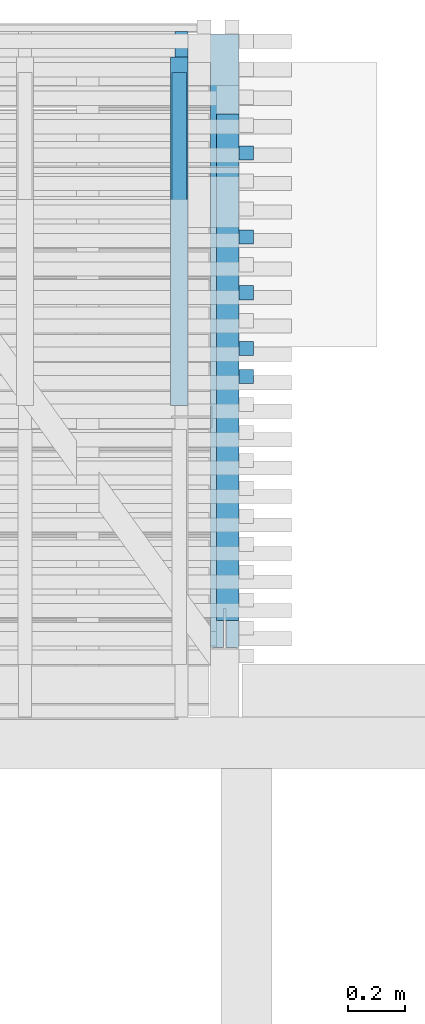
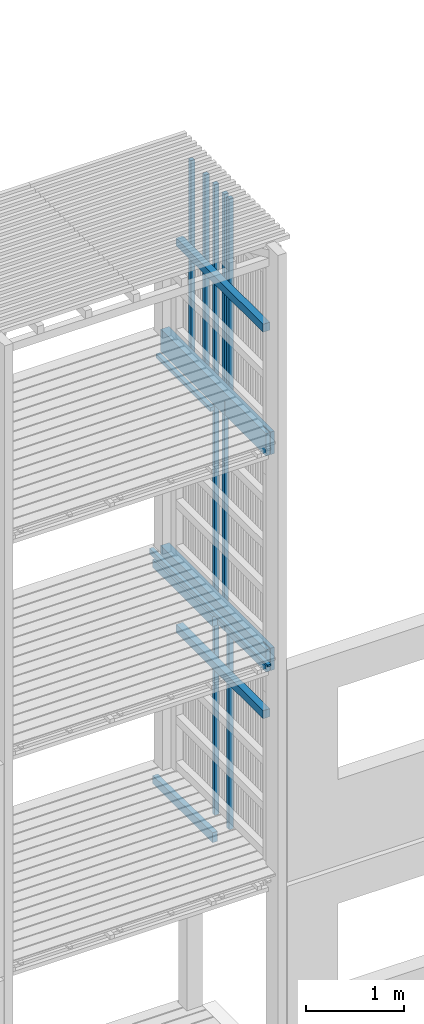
# One storey, part 30 of 182: 17 beams.
"""IFC2X3 building model written with IfcOpenShell, lengths in metres."""

from ifc_helpers import new_model, si_unit, frame, origin, place, context, project, spatial, faceted_brep, element, save


model = new_model("IFC2X3")

# Units and contexts
model_context = context("Model", 3, precision=1e-06, world=origin())
ifc_project = project(units=[si_unit("LENGTHUNIT", "METRE"), si_unit("PLANEANGLEUNIT", "RADIAN")], contexts=[model_context])

# Site, building, storey
site = spatial("IfcSite", under=ifc_project, CompositionType="ELEMENT")
building = spatial("IfcBuilding", under=site, CompositionType="ELEMENT")
storey = spatial("IfcBuildingStorey", under=building, Name="vs", CompositionType="ELEMENT", Elevation=-0.85)

# Beams
placement = place(None, origin())
beam_1_placement = place(placement, frame((6.441697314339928, 10.470077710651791, 5.384400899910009), z_axis=(0.0, 0.0, 1.0), x_axis=(0.0, 1.0, 0.0)))
element("IfcBeam", 1, at=beam_1_placement, inside=storey, Name="Calage", context=model_context, shape_type="Brep", body=[
    faceted_brep([(2.410000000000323, -0.022499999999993, -0.035599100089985), (0.0, -0.022499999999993, 0.012600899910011), (0.0, 0.022500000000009, 0.012600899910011), (2.410000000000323, 0.022500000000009, -0.035599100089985), (0.0, 0.022500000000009, 0.035599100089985), (0.0, 0.022500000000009, 0.012600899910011), (0.0, -0.022499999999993, 0.012600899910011), (0.0, -0.022499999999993, 0.035599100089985), (2.410000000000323, 0.022500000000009, -0.035599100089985), (0.0, 0.022500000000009, 0.012600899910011), (0.0, 0.022500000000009, 0.035599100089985), (2.410000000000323, 0.022500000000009, 0.035599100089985), (2.410000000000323, -0.022499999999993, 0.035599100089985), (0.0, -0.022499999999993, 0.035599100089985), (0.0, -0.022499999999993, 0.012600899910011), (2.410000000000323, -0.022499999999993, -0.035599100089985), (2.410000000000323, 0.022500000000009, 0.035599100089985), (0.0, 0.022500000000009, 0.035599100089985), (0.0, -0.022499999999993, 0.035599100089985), (2.410000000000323, -0.022499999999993, 0.035599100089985), (2.410000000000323, 0.022500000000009, -0.035599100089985), (2.410000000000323, 0.022500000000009, 0.035599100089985), (2.410000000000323, -0.022499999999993, 0.035599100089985), (2.410000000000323, -0.022499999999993, -0.035599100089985)], [[[0, 1, 2, 3]], [[4, 5, 6, 7]], [[8, 9, 10, 11]], [[12, 13, 14, 15]], [[16, 17, 18, 19]], [[20, 21, 22, 23]]]),
])
beam_2_placement = place(placement, frame((6.604197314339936, 10.810077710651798, 9.37249999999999), z_axis=(0.0, 0.0, 1.0), x_axis=(0.0, 1.0, 0.0)))
element("IfcBeam", 2, at=beam_2_placement, inside=storey, Name="Support bardage", context=model_context, shape_type="Brep", body=[
    faceted_brep([(1.779999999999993, -0.039999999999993, 0.050000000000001), (1.779999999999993, -0.039999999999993, -0.050000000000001), (1.779999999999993, 0.04000000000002, -0.050000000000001), (1.779999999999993, 0.04000000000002, 0.050000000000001), (-4e-15, -0.039999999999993, -0.050000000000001), (1.779999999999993, -0.039999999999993, -0.050000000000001), (1.779999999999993, -0.039999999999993, 0.050000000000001), (-4e-15, -0.039999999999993, 0.050000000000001), (-4e-15, 0.04000000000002, -0.050000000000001), (1.779999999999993, 0.04000000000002, -0.050000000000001), (1.779999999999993, -0.039999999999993, -0.050000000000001), (-4e-15, -0.039999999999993, -0.050000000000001), (-4e-15, 0.04000000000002, 0.050000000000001), (1.779999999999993, 0.04000000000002, 0.050000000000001), (1.779999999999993, 0.04000000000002, -0.050000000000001), (-4e-15, 0.04000000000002, -0.050000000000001), (-4e-15, -0.039999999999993, 0.050000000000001), (1.779999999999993, -0.039999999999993, 0.050000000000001), (1.779999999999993, 0.04000000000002, 0.050000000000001), (-4e-15, 0.04000000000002, 0.050000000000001), (-4e-15, -0.039999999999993, -0.050000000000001), (-4e-15, -0.039999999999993, 0.050000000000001), (-4e-15, 0.04000000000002, 0.050000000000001), (-4e-15, 0.04000000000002, -0.050000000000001)], [[[0, 1, 2, 3]], [[4, 5, 6, 7]], [[8, 9, 10, 11]], [[12, 13, 14, 15]], [[16, 17, 18, 19]], [[20, 21, 22, 23]]]),
])
beam_3_placement = place(placement, frame((6.66919731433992, 12.452350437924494, 7.974999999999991), z_axis=(-1.0, 0.0, 0.0), x_axis=(0.0, 0.0, 1.0)))
element("IfcBeam", 3, at=beam_3_placement, inside=storey, Name="Bardage", context=model_context, shape_type="Brep", body=[
    faceted_brep([(2.479999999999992, -0.024999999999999, 0.024999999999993), (2.479999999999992, -0.024999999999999, -0.025000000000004), (2.479999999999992, 0.025000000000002, -0.025000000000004), (2.479999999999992, 0.025000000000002, 0.024999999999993), (0.0, 0.025000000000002, 0.024999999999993), (0.0, -0.024999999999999, 0.024999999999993), (2.479999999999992, -0.024999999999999, 0.024999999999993), (2.479999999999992, 0.025000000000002, 0.024999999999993), (0.0, -0.024999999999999, 0.024999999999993), (0.0, 0.025000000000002, 0.024999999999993), (0.0, 0.025000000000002, -0.025000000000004), (0.0, -0.024999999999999, -0.025000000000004), (0.0, 0.025000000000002, -0.025000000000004), (0.0, 0.025000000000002, 0.024999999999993), (2.479999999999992, 0.025000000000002, 0.024999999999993), (2.479999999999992, 0.025000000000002, -0.025000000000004), (0.0, -0.024999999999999, -0.025000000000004), (0.0, 0.025000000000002, -0.025000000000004), (2.479999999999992, 0.025000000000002, -0.025000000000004), (2.479999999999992, -0.024999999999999, -0.025000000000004), (2.479999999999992, -0.024999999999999, 0.024999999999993), (0.0, -0.024999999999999, 0.024999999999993), (0.0, -0.024999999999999, -0.025000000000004), (2.479999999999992, -0.024999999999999, -0.025000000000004)], [[[0, 1, 2, 3]], [[4, 5, 6, 7]], [[8, 9, 10, 11]], [[12, 13, 14, 15]], [[16, 17, 18, 19]], [[20, 21, 22, 23]]]),
])
beam_4_placement = place(placement, frame((6.66919731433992, 11.666895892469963, 2.575000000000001), z_axis=(-1.0, 0.0, 0.0), x_axis=(0.0, 0.0, 1.0)))
element("IfcBeam", 4, at=beam_4_placement, inside=storey, Name="Bardage", context=model_context, shape_type="Brep", body=[
    faceted_brep([(0.0, -0.025000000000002, 0.024999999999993), (0.0, 0.024999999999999, 0.024999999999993), (0.0, 0.024999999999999, -0.025000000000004), (0.0, -0.025000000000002, -0.025000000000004), (2.699961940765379, 0.024999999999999, -0.025000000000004), (2.699961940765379, 0.024999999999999, 0.024999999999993), (2.699961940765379, -0.025000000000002, 0.024999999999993), (2.699961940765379, -0.025000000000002, -0.025000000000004), (0.0, -0.025000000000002, -0.025000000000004), (0.0, 0.024999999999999, -0.025000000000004), (2.699961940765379, 0.024999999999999, -0.025000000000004), (2.699961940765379, -0.025000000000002, -0.025000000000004), (2.699961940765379, 0.024999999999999, -0.025000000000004), (0.0, 0.024999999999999, -0.025000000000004), (0.0, 0.024999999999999, 0.024999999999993), (2.699961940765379, 0.024999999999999, 0.024999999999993), (2.699961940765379, 0.024999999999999, 0.024999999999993), (0.0, 0.024999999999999, 0.024999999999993), (0.0, -0.025000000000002, 0.024999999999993), (2.699961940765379, -0.025000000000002, 0.024999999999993), (2.699961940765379, -0.025000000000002, 0.024999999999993), (0.0, -0.025000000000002, 0.024999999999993), (0.0, -0.025000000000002, -0.025000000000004), (2.699961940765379, -0.025000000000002, -0.025000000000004)], [[[0, 1, 2, 3]], [[4, 5, 6, 7]], [[8, 9, 10, 11]], [[12, 13, 14, 15]], [[16, 17, 18, 19]], [[20, 21, 22, 23]]]),
])
beam_5_placement = place(placement, frame((6.66919731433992, 11.666895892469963, 7.974999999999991), z_axis=(-1.0, 0.0, 0.0), x_axis=(0.0, 0.0, 1.0)))
element("IfcBeam", 5, at=beam_5_placement, inside=storey, Name="Bardage", context=model_context, shape_type="Brep", body=[
    faceted_brep([(2.479999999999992, -0.025000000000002, 0.024999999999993), (2.479999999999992, -0.025000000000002, -0.025000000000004), (2.479999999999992, 0.024999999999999, -0.025000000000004), (2.479999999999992, 0.024999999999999, 0.024999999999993), (0.0, 0.024999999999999, 0.024999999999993), (0.0, -0.025000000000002, 0.024999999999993), (2.479999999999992, -0.025000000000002, 0.024999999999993), (2.479999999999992, 0.024999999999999, 0.024999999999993), (0.0, -0.025000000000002, 0.024999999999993), (0.0, 0.024999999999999, 0.024999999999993), (0.0, 0.024999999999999, -0.025000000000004), (0.0, -0.025000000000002, -0.025000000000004), (0.0, 0.024999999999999, -0.025000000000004), (0.0, 0.024999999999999, 0.024999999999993), (2.479999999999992, 0.024999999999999, 0.024999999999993), (2.479999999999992, 0.024999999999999, -0.025000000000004), (0.0, -0.025000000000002, -0.025000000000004), (0.0, 0.024999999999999, -0.025000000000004), (2.479999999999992, 0.024999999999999, -0.025000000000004), (2.479999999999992, -0.025000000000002, -0.025000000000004), (2.479999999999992, -0.025000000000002, 0.024999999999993), (0.0, -0.025000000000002, 0.024999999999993), (0.0, -0.025000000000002, -0.025000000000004), (2.479999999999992, -0.025000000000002, -0.025000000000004)], [[[0, 1, 2, 3]], [[4, 5, 6, 7]], [[8, 9, 10, 11]], [[12, 13, 14, 15]], [[16, 17, 18, 19]], [[20, 21, 22, 23]]]),
])
beam_6_placement = place(placement, frame((6.434197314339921, 11.565077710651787, 2.604249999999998), z_axis=(0.0, 0.0, 1.0), x_axis=(0.0, 1.0, 0.0)))
element("IfcBeam", 6, at=beam_6_placement, inside=storey, Name="Solive", context=model_context, shape_type="Brep", body=[
    faceted_brep([(0.0, -0.03, 0.06185), (0.0, -0.03, -0.06185), (1.225000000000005, -0.03, -0.06185), (1.225000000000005, -0.03, 0.03735), (0.0, -0.03, -0.06185), (0.0, -0.03, 0.06185), (0.0, 0.029999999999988, 0.06185), (0.0, 0.029999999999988, -0.06185), (1.225000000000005, -0.03, -0.06185), (0.0, -0.03, -0.06185), (0.0, 0.029999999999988, -0.06185), (1.225000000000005, 0.029999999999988, -0.06185), (1.225000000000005, 0.029999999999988, 0.03735), (1.225000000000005, 0.029999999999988, -0.06185), (0.0, 0.029999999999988, -0.06185), (0.0, 0.029999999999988, 0.06185), (1.225000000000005, -0.03, 0.03735), (1.225000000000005, -0.03, -0.06185), (1.225000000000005, 0.029999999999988, -0.06185), (1.225000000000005, 0.029999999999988, 0.03735), (1.225000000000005, -0.03, 0.03735), (1.225000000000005, 0.029999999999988, 0.03735), (0.0, 0.029999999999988, 0.06185), (0.0, -0.03, 0.06185)], [[[0, 1, 2, 3]], [[4, 5, 6, 7]], [[8, 9, 10, 11]], [[12, 13, 14, 15]], [[16, 17, 18, 19]], [[20, 21, 22, 23]]]),
])
beam_7_placement = place(placement, frame((6.66919731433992, 11.765077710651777, 5.274999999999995), z_axis=(-1.0, 0.0, 0.0), x_axis=(0.0, 1e-15, 1.0)))
element("IfcBeam", 7, at=beam_7_placement, inside=storey, Name="Bardage", context=model_context, shape_type="Brep", body=[
    faceted_brep([(1e-15, -0.024999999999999, 0.024999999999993), (1e-15, 0.025000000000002, 0.024999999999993), (1e-15, 0.025000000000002, -0.025000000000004), (1e-15, -0.024999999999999, -0.025000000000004), (2.699999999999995, -0.025000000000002, -0.025000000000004), (2.699999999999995, 0.024999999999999, -0.025000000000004), (2.699999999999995, 0.024999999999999, 0.024999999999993), (2.699999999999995, -0.025000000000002, 0.024999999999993), (1e-15, -0.024999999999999, 0.024999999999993), (1e-15, -0.024999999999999, -0.025000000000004), (2.699999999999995, -0.025000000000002, -0.025000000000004), (2.699999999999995, -0.025000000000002, 0.024999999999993), (2.699999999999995, -0.025000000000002, -0.025000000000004), (1e-15, -0.024999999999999, -0.025000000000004), (1e-15, 0.025000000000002, -0.025000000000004), (2.699999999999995, 0.024999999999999, -0.025000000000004), (2.699999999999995, 0.024999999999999, -0.025000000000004), (1e-15, 0.025000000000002, -0.025000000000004), (1e-15, 0.025000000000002, 0.024999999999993), (2.699999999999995, 0.024999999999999, 0.024999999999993), (2.699999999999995, 0.024999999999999, 0.024999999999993), (1e-15, 0.025000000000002, 0.024999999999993), (1e-15, -0.024999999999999, 0.024999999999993), (2.699999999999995, -0.025000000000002, 0.024999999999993)], [[[0, 1, 2, 3]], [[4, 5, 6, 7]], [[8, 9, 10, 11]], [[12, 13, 14, 15]], [[16, 17, 18, 19]], [[20, 21, 22, 23]]]),
])
beam_8_placement = place(placement, frame((6.66919731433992, 12.157804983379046, 7.974999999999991), z_axis=(-1.0, 0.0, 0.0), x_axis=(0.0, 0.0, 1.0)))
element("IfcBeam", 8, at=beam_8_placement, inside=storey, Name="Bardage", context=model_context, shape_type="Brep", body=[
    faceted_brep([(2.479999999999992, -0.024999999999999, 0.024999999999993), (2.479999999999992, -0.024999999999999, -0.025000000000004), (2.479999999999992, 0.025000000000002, -0.025000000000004), (2.479999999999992, 0.025000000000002, 0.024999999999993), (0.0, 0.024999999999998, 0.024999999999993), (0.0, -0.024999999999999, 0.024999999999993), (2.479999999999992, -0.024999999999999, 0.024999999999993), (2.479999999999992, 0.025000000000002, 0.024999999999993), (0.0, -0.024999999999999, 0.024999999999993), (0.0, 0.024999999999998, 0.024999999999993), (0.0, 0.024999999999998, -0.025000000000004), (0.0, -0.024999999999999, -0.025000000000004), (0.0, 0.024999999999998, -0.025000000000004), (0.0, 0.024999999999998, 0.024999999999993), (2.479999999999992, 0.025000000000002, 0.024999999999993), (2.479999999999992, 0.025000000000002, -0.025000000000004), (0.0, -0.024999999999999, -0.025000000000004), (0.0, 0.024999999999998, -0.025000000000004), (2.479999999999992, 0.025000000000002, -0.025000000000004), (2.479999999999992, -0.024999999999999, -0.025000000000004), (2.479999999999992, -0.024999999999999, 0.024999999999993), (0.0, -0.024999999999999, 0.024999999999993), (0.0, -0.024999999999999, -0.025000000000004), (2.479999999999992, -0.024999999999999, -0.025000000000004)], [[[0, 1, 2, 3]], [[4, 5, 6, 7]], [[8, 9, 10, 11]], [[12, 13, 14, 15]], [[16, 17, 18, 19]], [[20, 21, 22, 23]]]),
])
beam_9_placement = place(placement, frame((6.434197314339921, 12.735077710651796, 7.91739999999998), z_axis=(0.0, 0.0, 1.0), x_axis=(0.0, -1.0, 0.0)))
element("IfcBeam", 9, at=beam_9_placement, inside=storey, Name="Calage", context=model_context, shape_type="Brep", body=[
    faceted_brep([(0.0, 0.025000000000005, -0.025), (0.0, -0.024999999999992, -0.025), (0.0, -0.024999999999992, 0.024999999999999), (0.0, 0.025000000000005, 0.024999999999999), (1.115000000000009, -0.024999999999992, 0.024999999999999), (1.115000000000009, -0.024999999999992, -0.025), (1.115000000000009, 0.025000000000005, -0.025), (1.115000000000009, 0.025000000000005, 0.024999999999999), (0.0, -0.024999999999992, 0.024999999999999), (0.0, -0.024999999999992, -0.025), (1.115000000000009, -0.024999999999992, -0.025), (1.115000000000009, -0.024999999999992, 0.024999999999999), (1.115000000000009, -0.024999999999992, -0.025), (0.0, -0.024999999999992, -0.025), (0.0, 0.025000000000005, -0.025), (1.115000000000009, 0.025000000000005, -0.025), (1.115000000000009, 0.025000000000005, -0.025), (0.0, 0.025000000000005, -0.025), (0.0, 0.025000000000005, 0.024999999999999), (1.115000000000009, 0.025000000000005, 0.024999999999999), (1.115000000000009, 0.025000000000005, 0.024999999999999), (0.0, 0.025000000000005, 0.024999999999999), (0.0, -0.024999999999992, 0.024999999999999), (1.115000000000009, -0.024999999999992, 0.024999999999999)], [[[0, 1, 2, 3]], [[4, 5, 6, 7]], [[8, 9, 10, 11]], [[12, 13, 14, 15]], [[16, 17, 18, 19]], [[20, 21, 22, 23]]]),
])
beam_10_placement = place(placement, frame((6.604197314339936, 10.810077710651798, 4.543749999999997), z_axis=(0.0, 0.0, 1.0), x_axis=(0.0, 1.0, 0.0)))
element("IfcBeam", 10, at=beam_10_placement, inside=storey, Name="Support bardage", context=model_context, shape_type="Brep", body=[
    faceted_brep([(1.779999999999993, -0.039999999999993, 0.050000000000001), (1.779999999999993, -0.039999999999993, -0.050000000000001), (1.779999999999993, 0.04000000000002, -0.050000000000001), (1.779999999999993, 0.04000000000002, 0.050000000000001), (-4e-15, -0.039999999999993, -0.050000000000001), (1.779999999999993, -0.039999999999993, -0.050000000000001), (1.779999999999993, -0.039999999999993, 0.050000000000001), (-4e-15, -0.039999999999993, 0.050000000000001), (-4e-15, 0.04000000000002, -0.050000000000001), (1.779999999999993, 0.04000000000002, -0.050000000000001), (1.779999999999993, -0.039999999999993, -0.050000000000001), (-4e-15, -0.039999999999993, -0.050000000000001), (-4e-15, 0.04000000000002, 0.050000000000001), (1.779999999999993, 0.04000000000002, 0.050000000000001), (1.779999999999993, 0.04000000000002, -0.050000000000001), (-4e-15, 0.04000000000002, -0.050000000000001), (-4e-15, -0.039999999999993, 0.050000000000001), (1.779999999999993, -0.039999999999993, 0.050000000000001), (1.779999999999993, 0.04000000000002, 0.050000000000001), (-4e-15, 0.04000000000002, 0.050000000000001), (-4e-15, -0.039999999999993, -0.050000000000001), (-4e-15, -0.039999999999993, 0.050000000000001), (-4e-15, 0.04000000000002, 0.050000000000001), (-4e-15, 0.04000000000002, -0.050000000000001)], [[[0, 1, 2, 3]], [[4, 5, 6, 7]], [[8, 9, 10, 11]], [[12, 13, 14, 15]], [[16, 17, 18, 19]], [[20, 21, 22, 23]]]),
])
beam_11_placement = place(placement, frame((6.66919731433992, 11.765077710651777, 7.974999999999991), z_axis=(-1.0, 0.0, 0.0), x_axis=(0.0, 1e-15, 1.0)))
element("IfcBeam", 11, at=beam_11_placement, inside=storey, Name="Bardage", context=model_context, shape_type="Brep", body=[
    faceted_brep([(2.479999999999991, -0.025000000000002, 0.024999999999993), (2.479999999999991, -0.025000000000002, -0.025000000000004), (2.479999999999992, 0.024999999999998, -0.025000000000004), (2.479999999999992, 0.024999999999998, 0.024999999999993), (0.0, 0.025000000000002, 0.024999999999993), (0.0, -0.024999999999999, 0.024999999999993), (2.479999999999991, -0.025000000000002, 0.024999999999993), (2.479999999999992, 0.024999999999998, 0.024999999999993), (0.0, -0.024999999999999, 0.024999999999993), (0.0, 0.025000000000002, 0.024999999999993), (0.0, 0.025000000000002, -0.025000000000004), (0.0, -0.024999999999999, -0.025000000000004), (0.0, 0.025000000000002, -0.025000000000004), (0.0, 0.025000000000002, 0.024999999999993), (2.479999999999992, 0.024999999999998, 0.024999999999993), (2.479999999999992, 0.024999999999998, -0.025000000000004), (0.0, -0.024999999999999, -0.025000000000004), (0.0, 0.025000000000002, -0.025000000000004), (2.479999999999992, 0.024999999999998, -0.025000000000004), (2.479999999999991, -0.025000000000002, -0.025000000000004), (2.479999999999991, -0.025000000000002, 0.024999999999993), (0.0, -0.024999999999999, 0.024999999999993), (0.0, -0.024999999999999, -0.025000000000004), (2.479999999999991, -0.025000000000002, -0.025000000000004)], [[[0, 1, 2, 3]], [[4, 5, 6, 7]], [[8, 9, 10, 11]], [[12, 13, 14, 15]], [[16, 17, 18, 19]], [[20, 21, 22, 23]]]),
])
beam_12_placement = place(placement, frame((6.66919731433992, 11.961441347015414, 7.974999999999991), z_axis=(-1.0, 0.0, 0.0), x_axis=(0.0, 0.0, 1.0)))
element("IfcBeam", 12, at=beam_12_placement, inside=storey, Name="Bardage", context=model_context, shape_type="Brep", body=[
    faceted_brep([(2.479999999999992, -0.025000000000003, 0.024999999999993), (2.479999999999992, -0.025000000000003, -0.025000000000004), (2.479999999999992, 0.024999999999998, -0.025000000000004), (2.479999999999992, 0.024999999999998, 0.024999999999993), (0.0, 0.024999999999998, 0.024999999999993), (0.0, -0.025000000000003, 0.024999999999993), (2.479999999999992, -0.025000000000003, 0.024999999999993), (2.479999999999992, 0.024999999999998, 0.024999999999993), (0.0, -0.025000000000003, 0.024999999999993), (0.0, 0.024999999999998, 0.024999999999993), (0.0, 0.024999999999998, -0.025000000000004), (0.0, -0.025000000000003, -0.025000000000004), (0.0, 0.024999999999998, -0.025000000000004), (0.0, 0.024999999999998, 0.024999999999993), (2.479999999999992, 0.024999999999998, 0.024999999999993), (2.479999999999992, 0.024999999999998, -0.025000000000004), (0.0, -0.025000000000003, -0.025000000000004), (0.0, 0.024999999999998, -0.025000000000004), (2.479999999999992, 0.024999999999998, -0.025000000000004), (2.479999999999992, -0.025000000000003, -0.025000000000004), (2.479999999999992, -0.025000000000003, 0.024999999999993), (0.0, -0.025000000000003, 0.024999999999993), (0.0, -0.025000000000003, -0.025000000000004), (2.479999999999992, -0.025000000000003, -0.025000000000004)], [[[0, 1, 2, 3]], [[4, 5, 6, 7]], [[8, 9, 10, 11]], [[12, 13, 14, 15]], [[16, 17, 18, 19]], [[20, 21, 22, 23]]]),
])
beam_13_placement = place(placement, frame((6.59419731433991, 10.715077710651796, 7.979999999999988), z_axis=(0.0, 0.0, 1.0), x_axis=(0.0, 1.0, 0.0)))
element("IfcBeam", 13, at=beam_13_placement, inside=storey, Name="Sommier", context=model_context, shape_type="Brep", body=[
    faceted_brep([(2.154999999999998, -0.050000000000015, -0.14), (2.154999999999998, -0.050000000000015, 0.140000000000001), (0.0, -0.050000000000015, 0.140000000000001), (0.0, -0.050000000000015, -0.14), (-4e-15, -0.004000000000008, 0.140000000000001), (0.0, -0.050000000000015, 0.140000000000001), (2.154999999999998, -0.050000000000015, 0.140000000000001), (2.154999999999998, 0.049999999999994, 0.140000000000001), (0.0, 0.049999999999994, 0.140000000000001), (-4e-15, 0.003999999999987, 0.140000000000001), (0.136999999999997, 0.003999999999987, 0.140000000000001), (0.136999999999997, -0.004000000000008, 0.140000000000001), (2.154999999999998, 0.049999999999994, 0.140000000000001), (2.154999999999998, -0.050000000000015, 0.140000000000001), (2.154999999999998, -0.050000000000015, -0.14), (2.154999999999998, 0.049999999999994, -0.14), (0.847999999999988, 0.044999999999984, -0.14), (0.771999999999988, 0.044999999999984, -0.14), (0.771999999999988, 0.044999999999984, 0.035000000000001), (0.847999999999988, 0.044999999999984, 0.035000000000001), (0.847999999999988, 0.044999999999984, 0.035000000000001), (0.771999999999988, 0.044999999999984, 0.035000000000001), (0.771999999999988, 0.049999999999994, 0.035000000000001), (0.847999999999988, 0.049999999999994, 0.035000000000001), (0.847999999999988, 0.049999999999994, -0.14), (0.847999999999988, 0.044999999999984, -0.14), (0.847999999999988, 0.044999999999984, 0.035000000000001), (0.847999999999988, 0.049999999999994, 0.035000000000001), (0.771999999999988, 0.044999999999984, 0.035000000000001), (0.771999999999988, 0.044999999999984, -0.14), (0.771999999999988, 0.049999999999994, -0.14), (0.771999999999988, 0.049999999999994, 0.035000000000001), (0.0, 0.049999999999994, 0.140000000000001), (2.154999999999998, 0.049999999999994, 0.140000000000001), (2.154999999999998, 0.049999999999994, -0.14), (0.847999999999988, 0.049999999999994, -0.14), (0.847999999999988, 0.049999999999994, 0.035000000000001), (0.771999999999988, 0.049999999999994, 0.035000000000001), (0.771999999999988, 0.049999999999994, -0.14), (0.0, 0.049999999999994, -0.14), (0.0, 0.003999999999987, -0.14), (-4e-15, 0.003999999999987, 0.140000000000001), (0.0, 0.049999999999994, 0.140000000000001), (0.0, 0.049999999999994, -0.14), (0.0, -0.050000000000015, 0.140000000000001), (-4e-15, -0.004000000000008, 0.140000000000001), (0.0, -0.004000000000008, -0.14), (0.0, -0.050000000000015, -0.14), (0.0, 0.049999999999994, -0.14), (0.771999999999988, 0.049999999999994, -0.14), (0.771999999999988, 0.044999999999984, -0.14), (0.847999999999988, 0.044999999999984, -0.14), (0.847999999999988, 0.049999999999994, -0.14), (2.154999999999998, 0.049999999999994, -0.14), (2.154999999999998, -0.050000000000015, -0.14), (0.0, -0.050000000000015, -0.14), (0.0, -0.004000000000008, -0.14), (0.136999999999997, -0.004000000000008, -0.14), (0.136999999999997, 0.003999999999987, -0.14), (0.0, 0.003999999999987, -0.14), (0.136999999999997, 0.003999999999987, -0.14), (0.136999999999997, -0.004000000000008, -0.14), (0.136999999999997, -0.004000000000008, 0.140000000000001), (0.136999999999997, 0.003999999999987, 0.140000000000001), (-4e-15, -0.004000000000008, 0.140000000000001), (0.136999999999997, -0.004000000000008, 0.140000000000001), (0.136999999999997, -0.004000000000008, -0.14), (0.0, -0.004000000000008, -0.14), (0.136999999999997, 0.003999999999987, 0.140000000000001), (-4e-15, 0.003999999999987, 0.140000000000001), (0.0, 0.003999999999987, -0.14), (0.136999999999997, 0.003999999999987, -0.14)], [[[0, 1, 2, 3]], [[4, 5, 6, 7, 8, 9, 10, 11]], [[12, 13, 14, 15]], [[16, 17, 18, 19]], [[20, 21, 22, 23]], [[24, 25, 26, 27]], [[28, 29, 30, 31]], [[32, 33, 34, 35, 36, 37, 38, 39]], [[40, 41, 42, 43]], [[44, 45, 46, 47]], [[48, 49, 50, 51, 52, 53, 54, 55, 56, 57, 58, 59]], [[60, 61, 62, 63]], [[64, 65, 66, 67]], [[68, 69, 70, 71]]]),
])
beam_14_placement = place(placement, frame((6.66919731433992, 11.961441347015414, 5.274999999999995), z_axis=(-1.0, 0.0, 0.0), x_axis=(0.0, 0.0, 1.0)))
element("IfcBeam", 14, at=beam_14_placement, inside=storey, Name="Bardage", context=model_context, shape_type="Brep", body=[
    faceted_brep([(1e-15, -0.025000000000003, 0.024999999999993), (1e-15, 0.024999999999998, 0.024999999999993), (1e-15, 0.024999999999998, -0.025000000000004), (1e-15, -0.025000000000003, -0.025000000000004), (2.699999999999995, -0.025000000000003, -0.025000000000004), (2.699999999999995, 0.024999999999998, -0.025000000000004), (2.699999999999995, 0.024999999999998, 0.024999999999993), (2.699999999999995, -0.025000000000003, 0.024999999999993), (1e-15, -0.025000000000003, 0.024999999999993), (1e-15, -0.025000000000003, -0.025000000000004), (2.699999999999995, -0.025000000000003, -0.025000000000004), (2.699999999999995, -0.025000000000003, 0.024999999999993), (2.699999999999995, -0.025000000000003, -0.025000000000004), (1e-15, -0.025000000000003, -0.025000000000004), (1e-15, 0.024999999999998, -0.025000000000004), (2.699999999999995, 0.024999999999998, -0.025000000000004), (2.699999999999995, 0.024999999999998, -0.025000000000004), (1e-15, 0.024999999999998, -0.025000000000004), (1e-15, 0.024999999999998, 0.024999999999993), (2.699999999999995, 0.024999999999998, 0.024999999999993), (2.699999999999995, 0.024999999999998, 0.024999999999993), (1e-15, 0.024999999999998, 0.024999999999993), (1e-15, -0.025000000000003, 0.024999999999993), (2.699999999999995, -0.025000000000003, 0.024999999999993)], [[[0, 1, 2, 3]], [[4, 5, 6, 7]], [[8, 9, 10, 11]], [[12, 13, 14, 15]], [[16, 17, 18, 19]], [[20, 21, 22, 23]]]),
])
beam_15_placement = place(placement, frame((6.59419731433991, 10.715077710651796, 5.279999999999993), z_axis=(0.0, 0.0, 1.0), x_axis=(0.0, 1.0, 0.0)))
element("IfcBeam", 15, at=beam_15_placement, inside=storey, Name="Sommier", context=model_context, shape_type="Brep", body=[
    faceted_brep([(2.154999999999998, -0.050000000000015, -0.140000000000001), (2.154999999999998, -0.050000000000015, 0.140000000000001), (0.0, -0.050000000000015, 0.140000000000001), (0.0, -0.050000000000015, -0.140000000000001), (-4e-15, -0.004000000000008, 0.140000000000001), (0.0, -0.050000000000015, 0.140000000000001), (2.154999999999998, -0.050000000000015, 0.140000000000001), (2.154999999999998, 0.049999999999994, 0.140000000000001), (0.0, 0.049999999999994, 0.140000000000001), (-4e-15, 0.003999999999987, 0.140000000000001), (0.136999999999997, 0.003999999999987, 0.140000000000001), (0.136999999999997, -0.004000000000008, 0.140000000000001), (2.154999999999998, 0.049999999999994, 0.140000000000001), (2.154999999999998, -0.050000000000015, 0.140000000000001), (2.154999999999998, -0.050000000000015, -0.140000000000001), (2.154999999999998, 0.049999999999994, -0.140000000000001), (0.847999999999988, 0.044999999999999, -0.140000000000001), (0.771999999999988, 0.044999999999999, -0.140000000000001), (0.771999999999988, 0.044999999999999, 0.034999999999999), (0.847999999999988, 0.044999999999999, 0.034999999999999), (0.847999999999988, 0.044999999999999, 0.034999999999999), (0.771999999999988, 0.044999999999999, 0.034999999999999), (0.771999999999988, 0.049999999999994, 0.034999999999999), (0.847999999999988, 0.049999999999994, 0.034999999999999), (0.847999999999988, 0.049999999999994, -0.140000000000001), (0.847999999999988, 0.044999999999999, -0.140000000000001), (0.847999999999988, 0.044999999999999, 0.034999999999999), (0.847999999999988, 0.049999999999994, 0.034999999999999), (0.771999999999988, 0.044999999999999, 0.034999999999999), (0.771999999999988, 0.044999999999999, -0.140000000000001), (0.771999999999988, 0.049999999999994, -0.140000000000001), (0.771999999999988, 0.049999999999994, 0.034999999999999), (0.0, 0.049999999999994, 0.140000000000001), (2.154999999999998, 0.049999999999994, 0.140000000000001), (2.154999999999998, 0.049999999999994, -0.140000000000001), (0.847999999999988, 0.049999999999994, -0.140000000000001), (0.847999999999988, 0.049999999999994, 0.034999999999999), (0.771999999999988, 0.049999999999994, 0.034999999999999), (0.771999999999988, 0.049999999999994, -0.140000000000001), (0.0, 0.049999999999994, -0.140000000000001), (0.0, 0.003999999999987, -0.140000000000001), (-4e-15, 0.003999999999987, 0.140000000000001), (0.0, 0.049999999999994, 0.140000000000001), (0.0, 0.049999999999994, -0.140000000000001), (0.0, -0.050000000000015, 0.140000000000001), (-4e-15, -0.004000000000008, 0.140000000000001), (0.0, -0.004000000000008, -0.140000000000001), (0.0, -0.050000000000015, -0.140000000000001), (0.0, 0.049999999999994, -0.140000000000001), (0.771999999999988, 0.049999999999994, -0.140000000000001), (0.771999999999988, 0.044999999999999, -0.140000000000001), (0.847999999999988, 0.044999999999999, -0.140000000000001), (0.847999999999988, 0.049999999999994, -0.140000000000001), (2.154999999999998, 0.049999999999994, -0.140000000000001), (2.154999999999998, -0.050000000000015, -0.140000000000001), (0.0, -0.050000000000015, -0.140000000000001), (0.0, -0.004000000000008, -0.140000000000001), (0.136999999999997, -0.004000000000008, -0.140000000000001), (0.136999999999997, 0.003999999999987, -0.140000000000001), (0.0, 0.003999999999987, -0.140000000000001), (0.136999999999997, 0.003999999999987, -0.140000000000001), (0.136999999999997, -0.004000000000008, -0.140000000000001), (0.136999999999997, -0.004000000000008, 0.140000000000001), (0.136999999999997, 0.003999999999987, 0.140000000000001), (-4e-15, -0.004000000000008, 0.140000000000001), (0.136999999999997, -0.004000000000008, 0.140000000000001), (0.136999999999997, -0.004000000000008, -0.140000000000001), (0.0, -0.004000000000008, -0.140000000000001), (0.136999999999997, 0.003999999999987, 0.140000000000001), (-4e-15, 0.003999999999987, 0.140000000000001), (0.0, 0.003999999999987, -0.140000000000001), (0.136999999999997, 0.003999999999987, -0.140000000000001)], [[[0, 1, 2, 3]], [[4, 5, 6, 7, 8, 9, 10, 11]], [[12, 13, 14, 15]], [[16, 17, 18, 19]], [[20, 21, 22, 23]], [[24, 25, 26, 27]], [[28, 29, 30, 31]], [[32, 33, 34, 35, 36, 37, 38, 39]], [[40, 41, 42, 43]], [[44, 45, 46, 47]], [[48, 49, 50, 51, 52, 53, 54, 55, 56, 57, 58, 59]], [[60, 61, 62, 63]], [[64, 65, 66, 67]], [[68, 69, 70, 71]]]),
])
beam_16_placement = place(placement, frame((6.434197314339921, 11.565077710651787, 5.304249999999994), z_axis=(0.0, 0.0, 1.0), x_axis=(0.0, 1.0, 0.0)))
element("IfcBeam", 16, at=beam_16_placement, inside=storey, Name="Solive", context=model_context, shape_type="Brep", body=[
    faceted_brep([(0.0, -0.03, 0.061850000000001), (0.0, -0.03, -0.061849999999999), (1.225000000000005, -0.03, -0.061849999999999), (1.225000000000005, -0.03, 0.03735), (0.0, -0.03, -0.061849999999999), (0.0, -0.03, 0.061850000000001), (0.0, 0.029999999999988, 0.06185), (0.0, 0.029999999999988, -0.061849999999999), (1.225000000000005, -0.03, -0.061849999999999), (0.0, -0.03, -0.061849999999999), (0.0, 0.029999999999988, -0.061849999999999), (1.225000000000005, 0.029999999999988, -0.061849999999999), (1.225000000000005, 0.029999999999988, 0.03735), (1.225000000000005, 0.029999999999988, -0.061849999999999), (0.0, 0.029999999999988, -0.061849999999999), (0.0, 0.029999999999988, 0.06185), (1.225000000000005, -0.03, 0.03735), (1.225000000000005, -0.03, -0.061849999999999), (1.225000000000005, 0.029999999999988, -0.061849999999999), (1.225000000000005, 0.029999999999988, 0.03735), (1.225000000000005, -0.03, 0.03735), (1.225000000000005, 0.029999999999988, 0.03735), (0.0, 0.029999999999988, 0.06185), (0.0, -0.03, 0.061850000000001)], [[[0, 1, 2, 3]], [[4, 5, 6, 7]], [[8, 9, 10, 11]], [[12, 13, 14, 15]], [[16, 17, 18, 19]], [[20, 21, 22, 23]]]),
])
beam_17_placement = place(placement, frame((6.66919731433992, 11.961441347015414, 2.575000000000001), z_axis=(-1.0, 0.0, 0.0), x_axis=(0.0, 0.0, 1.0)))
element("IfcBeam", 17, at=beam_17_placement, inside=storey, Name="Bardage", context=model_context, shape_type="Brep", body=[
    faceted_brep([(0.0, -0.025000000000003, 0.024999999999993), (0.0, 0.024999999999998, 0.024999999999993), (0.0, 0.024999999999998, -0.025000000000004), (0.0, -0.025000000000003, -0.025000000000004), (2.699961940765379, 0.024999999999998, -0.025000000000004), (2.699961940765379, 0.024999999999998, 0.024999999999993), (2.699961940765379, -0.025000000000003, 0.024999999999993), (2.699961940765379, -0.025000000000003, -0.025000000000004), (0.0, -0.025000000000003, -0.025000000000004), (0.0, 0.024999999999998, -0.025000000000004), (2.699961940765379, 0.024999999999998, -0.025000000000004), (2.699961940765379, -0.025000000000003, -0.025000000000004), (2.699961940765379, 0.024999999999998, -0.025000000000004), (0.0, 0.024999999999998, -0.025000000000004), (0.0, 0.024999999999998, 0.024999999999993), (2.699961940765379, 0.024999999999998, 0.024999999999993), (2.699961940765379, 0.024999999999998, 0.024999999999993), (0.0, 0.024999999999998, 0.024999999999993), (0.0, -0.025000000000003, 0.024999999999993), (2.699961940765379, -0.025000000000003, 0.024999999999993), (2.699961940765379, -0.025000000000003, 0.024999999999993), (0.0, -0.025000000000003, 0.024999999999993), (0.0, -0.025000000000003, -0.025000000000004), (2.699961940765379, -0.025000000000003, -0.025000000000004)], [[[0, 1, 2, 3]], [[4, 5, 6, 7]], [[8, 9, 10, 11]], [[12, 13, 14, 15]], [[16, 17, 18, 19]], [[20, 21, 22, 23]]]),
])

save(model, "model.ifc")
